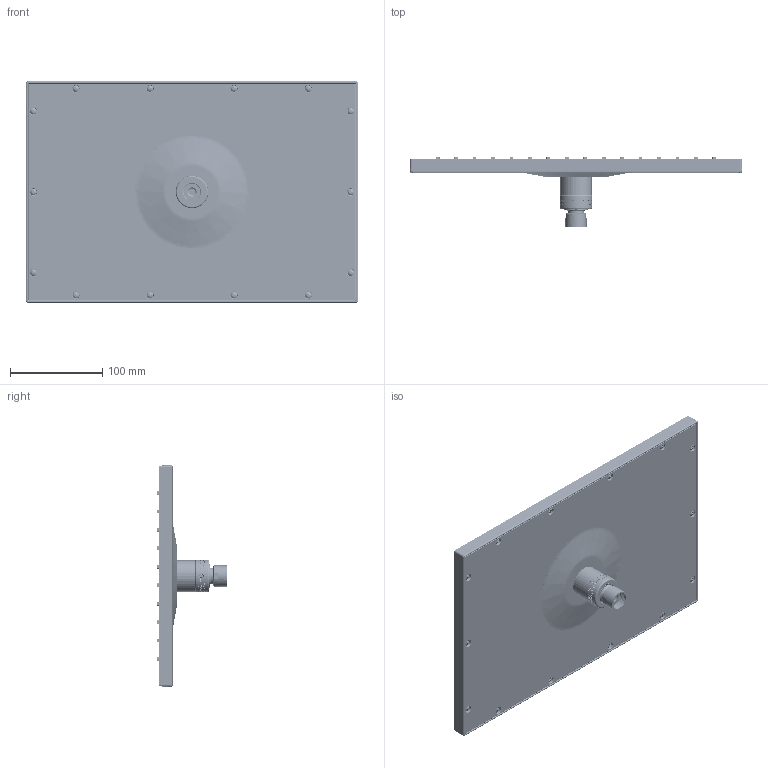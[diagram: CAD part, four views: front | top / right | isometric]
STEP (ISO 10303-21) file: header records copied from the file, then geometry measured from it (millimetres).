
FILE_DESCRIPTION((''),'2;1');
FILE_NAME('7650_ASM','2016-08-01T',('ivanv'),(''),'CREO PARAMETRIC BY PTC INC, 2015290','CREO PARAMETRIC BY PTC INC, 2015290','');
FILE_SCHEMA(('CONFIG_CONTROL_DESIGN'));
Products named in the file (15): P19000-005_999; P19000-004_999; P19000-006_ASM_999_ASM; P19000-001_999; P19000-002_999; P19001-001_999; P19000-010_999; P50101-006_999_1; P50101-006_999_2; P50101-006_999_ASM; P10100-003_999; P10202-001_999; P10100-002_999; GB78-85_999; 7650_ASM
Assembly tree (28 placements, depth 3):
  7650_ASM
    P19000-006_ASM_999_ASM  x2
      P19000-005_999
      P19000-004_999
    P19000-001_999
    P19000-002_999
    P19001-001_999
    P19000-010_999  x14
    P50101-006_999_ASM
      P50101-006_999_1
      P50101-006_999_2
    P10100-003_999
    P10202-001_999
    P10100-002_999
    GB78-85_999
Bounding box: 359.96 x 76.67 x 239.96 mm (x, y, z)
Volume: 749833.7 mm3; surface area: 668566.5 mm2
Topology: 27 solids, 27 shells, 13761 faces, 35087 edges, 22024 vertices
Faces by surface type: plane 5931, cylinder 4570, torus 1372, cone 1058, sphere 683, bspline 144, extrusion 3
Entity records: 335976 total; most frequent: CARTESIAN_POINT 77536, DIRECTION 55307, ORIENTED_EDGE 53198, EDGE_CURVE 26599, AXIS2_PLACEMENT_3D 22384, VERTEX_POINT 17067, EDGE_LOOP 12526, CIRCLE 11717
